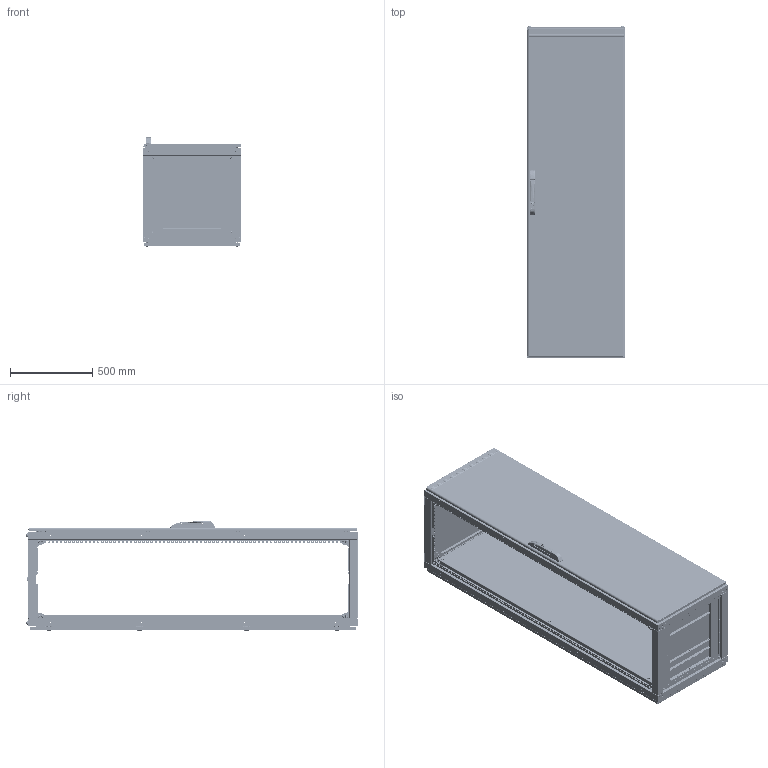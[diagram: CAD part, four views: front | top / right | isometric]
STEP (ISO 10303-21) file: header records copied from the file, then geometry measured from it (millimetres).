
FILE_DESCRIPTION (( 'STEP AP214' ), '1' );
FILE_NAME ('N200606S - 2000 H X 600 W X 600 D - NEO MODULAR.STEP', '2026-09-30T13:47:30', ( '' ), ( '' ), 'SwSTEP 2.0', 'SolidWorks 2025', '' );
FILE_SCHEMA (( 'AUTOMOTIVE_DESIGN' ));
Length unit declared in the file: millimetre
Products named in the file (99): Teos-Neo MP Durdurucu Destek; M8 Somun Kafesi_m8; MP 0701.0050 M8 SIFIR KAFA PERÇİN SOMUN; socket head cap screw_am_B18.3.1M - 8 x 1.25 x 20 Hex SHCS -- 20NHX; YM 1472; derinlik merdivenliVER3 NEO26-12_PP 16.0017   600; Front door Frame_600x2000; Front Door Sheet - Neo_PP 16.0082 600x2000; countersunk flat head cross recess screw_iso_ISO 7046-1 - M6 x 25 - Z --- 25C; YZE068T__1_1; kasa 2015VER3 NEO26-12_600x2000; Front Slat_600; NEO Modular Rear Panel_600x2000; TEOS-NEO MP Left Bracket with pin_25mm; TEOS-NEO MP Left Support Plastic Wedge; MP 14.0007 M6 Plastic Countersink; A910 3126 330; Mounting Plate bottom wedge screw; Teos-Neo MP Sağ Braketi; YP1189-1-M6_Close; epdm contaVER3 NEO26-12; hex flange nut gradea_iso1111_Hexagon Flange Nut ISO - 4161 - M6 - N; YP1315; TEOS-NEO MP Left Bracket with pin_Klavuzlu; F║ºE KAPAMA_; TEOS-NEO MP Right Bracket with pin_Klavuzlu; 4X8 POP PERÇİN_4X8; YM 3020; M8 Kare Somun_m8; socket button head screw_iso_ISO 7380 - M12 x 30 - 30C; derinlik iç köşeVER3 NEO26-12_PP 16.0023 600 D İÇ; lande plastic panel_1_1; Teos-Neo MP Sol Braketi; hex nut heavy_am_B18.2.4.6M - Heavy hex nut,  M12 x 1.75 --W-N; N200606S - 2000 H X 600 W X 600 D - NEO MODULAR; adaptor for zamak panel; TEOS-NEO MP Right Support Plastic Wedge; NEO Modular Derinlik_600; Lock Hinge_2000; Plastic Corner- Neo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
Assembly tree (276 placements, depth 5):
  N200606S - 2000 H X 600 W X 600 D - NEO MODULAR
    NEO Modular Frame Assembly_600x2000x600
      kasa 2015VER3 NEO26-12_600x2000  x2
        DİKEY PROFİL VER 1 ACIK PROFİLVER3 NEO26-12_PP 16.0014 H 2000
        ust genişlik deliksizVER3 NEO26-19_PP 16.0004 600 GEN.ÜST
        ust genişlik deliksizVER3 NEO26-19_PP 16.0003 600 GEN.ALT
        Kaldırma Kulagi SomunuVER3 NEO26-12_25x25
        hex nut heavy_am_B18.2.4.6M - Heavy hex nut,  M12 x 1.75 --W-N
        MP 0701.0050 M8 SIFIR KAFA PERÇİN SOMUN
      NEO Modular Derinlik_600  x4
        derinlik merdivenliVER3 NEO26-12_PP 16.0017   600
        derinlik iç köşeVER3 NEO26-12_PP 16.0023 600 D İÇ
        epdm contaVER3 NEO26-12
        kare rondela somunuVER3 NEO26-12
        kare rondelaVER3 NEO26-12
        socket head cap screw_am_B18.3.1M - 8 x 1.25 x 20 Hex SHCS -- 20NHX
        curved spring lock washer_din_Spring washer DIN 128 - A8
        4X8 POP PERÇİN
        4X8 POP PERÇİN_4X8
      TEOS-NEO Base sheet metal parts_600x600
        03-Base Sheet U1 04-2012VER3 NEO26-12_PP 12.0040 - 600-75
        Base sheet slide part_PP 12.0030 - 600  x2
        03-Base Sheet U1 04-2012VER3 NEO26-12_PP 12.0035 - 600-200
      NEO Base Width Part_PP 16.0098 600 GENİŞLİK  x2
      pan head cross recess screw_iso121_ISO 7045 - M5 x 10 - Z --- 10C  x14
      NEO Base depth Part_PP 16.0096 600  x2
      NEO Mounting plate sled_PP 16.1238-600  x2
      4,6 Diameter plug  x2
    NEO Modular Rear Panel_600x2000
      Rear Panel Sheet - Neo_PP 16.0046 600X2000
      pan head cross recess screw_iso121_ISO 7045 - M5 x 10 - Z --- 10C  x20
      countersunk flat head cross recess screw_iso_ISO 7046-1 - M6 x 25 - Z --- 25C  x8
      MP 14.0007 M6 Plastic Countersink  x8
      ARKA KAPAK BRAKETVER3 NEO26-12  x8
    NEO Modular Top Cover_600x600
      Top Cover Sheet_PP 16.0057 600X600 UST KAPAK
      countersunk flat head cross recess screw_iso_ISO 7046-1 - M6 x 25 - Z --- 25C  x2
      MP 14.0007 M6 Plastic Countersink  x2
      plain washer normal grade a_iso_Washer ISO 7089 - 12  x4
      socket button head screw_iso_ISO 7380 - M12 x 30 - 30C  x4
      Top Cover  3mm Stopper  x4
    TEOS-NEO MP Right Bracket with pin_25mm
      TEOS-NEO MP Right Bracket with pin_Klavuzlu
      TEOS-NEO MP pin
      pan head cross recess screw_iso121_ISO 7045 - M5 x 10 - Z --- 10C  x3
    TEOS-NEO MP Left Bracket with pin_25mm
      TEOS-NEO MP Left Bracket with pin_Klavuzlu
      TEOS-NEO MP pin
      pan head cross recess screw_iso121_ISO 7045 - M5 x 10 - Z --- 10C  x3
    Teos-Neo 3mm MOUNTING PLATE_TEOS MP 600x2000
      Teos - Neo Mounting Plate - 3 mm_PP 12.0098 600x2000
      MP 11.0195 Mounting Plate M8 Wedge  x2
      socket head cap screw_am_B18.3.1M - 8 x 1.25 x 35 Hex SHCS -- 35NHX  x2
      Teos-Neo Mounting Plate Right Bracket Mounting_Standart Pozisyon
        Teos-Neo MP Sağ Braketi
        pan head cross recess screw_iso121_ISO 7045 - M5 x 10 - Z --- 10C  x2
        M8 KAFES SOMUN_m8
          M8 Somun Kafesi_m8
          M8 Kare Somun_m8
        Teos-Neo MP Durdurucu
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Bounding box: 600.1 x 2014.6 x 664.99 mm (x, y, z)
Volume: 13263971.8 mm3; surface area: 15763454.4 mm2
Topology: 342 solids, 342 shells, 29664 faces, 80577 edges, 51379 vertices
Faces by surface type: plane 14793, cylinder 11577, cone 1156, torus 1030, bspline 879, sphere 229
Entity records: 333124 total; most frequent: CARTESIAN_POINT 97149, ORIENTED_EDGE 49598, DIRECTION 46104, EDGE_CURVE 24799, VERTEX_POINT 15905, AXIS2_PLACEMENT_3D 15706, LINE 14692, VECTOR 14692
